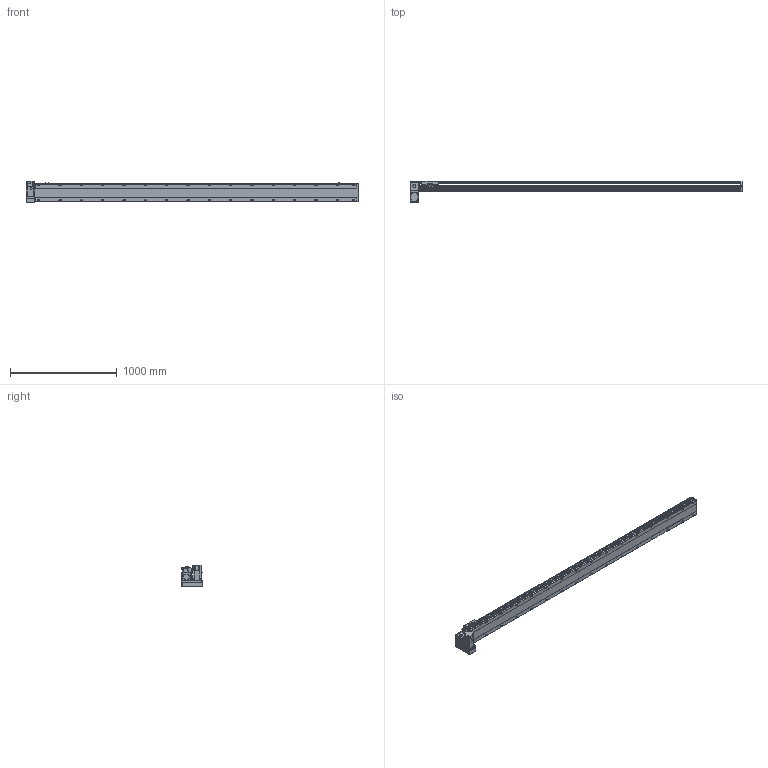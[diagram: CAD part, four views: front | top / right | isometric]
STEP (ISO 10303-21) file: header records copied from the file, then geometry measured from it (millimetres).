
FILE_DESCRIPTION(/* description */ ('STEP AP214'),/* implementation_level */ '2;1');
FILE_NAME(/* name */ 'PBS170-P40-S2750-LD-T75-C1-N(0)',/* time_stamp */ '2022-06-07T09:56:39+02:00',/* author */ ('License CC BY-ND 4.0'),/* organization */ ('CADENAS'),/* preprocessor_version */ 'ST-DEVELOPER v18.102',/* originating_system */ 'PARTsolutions',/* authorisation */ ' ');
FILE_SCHEMA (('AUTOMOTIVE_DESIGN {1 0 10303 214 3 1 1}'));
Length unit declared in the file: millimetre
Products named in the file (7): PBS170-P40-S2750-LD-T75-C1-N(0); PBS170_sensor; PBS170_plant; PBS170_sliser; T75-p1; PBS170T-LD_motors; PBS170-S2750()_body
Assembly tree (8 placements, depth 2):
  PBS170-P40-S2750-LD-T75-C1-N(0)
    PBS170_sensor  x3
    PBS170_plant
    PBS170_sliser
    T75-p1
    PBS170T-LD_motors
    PBS170-S2750()_body
Bounding box: 3113 x 201 x 197.3 mm (x, y, z)
Volume: 23460278 mm3; surface area: 2944360 mm2
Topology: 8 solids, 8 shells, 1210 faces, 3195 edges, 2082 vertices
Faces by surface type: plane 735, cylinder 403, cone 62, sphere 8, torus 2
Full cylindrical faces by diameter (mm): 3.242 x4, 4 x2, 4.4 x4, 4.5 x6, 4.917 x4, 6 x9, 6.647 x40, 7 x2, 7.5 x4, 8 x8, 8.5 x32, 10 x4, 10.5 x32, 11 x2, 30 x2, 40 x1, 70 x1
Entity records: 34782 total; most frequent: CARTESIAN_POINT 6609, DIRECTION 5860, ORIENTED_EDGE 5508, EDGE_CURVE 2754, AXIS2_PLACEMENT_3D 2077, VERTEX_POINT 1922, LINE 1706, VECTOR 1706
